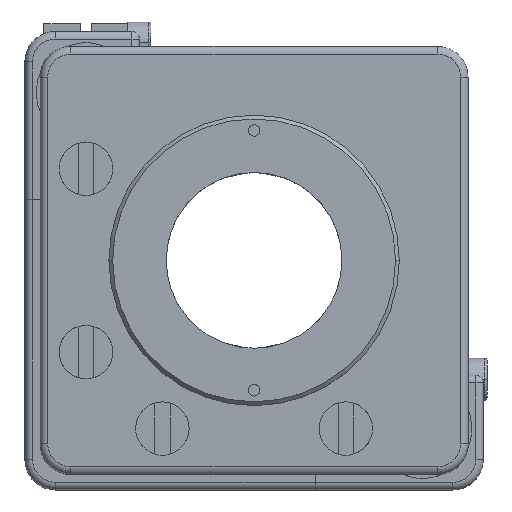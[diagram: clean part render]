
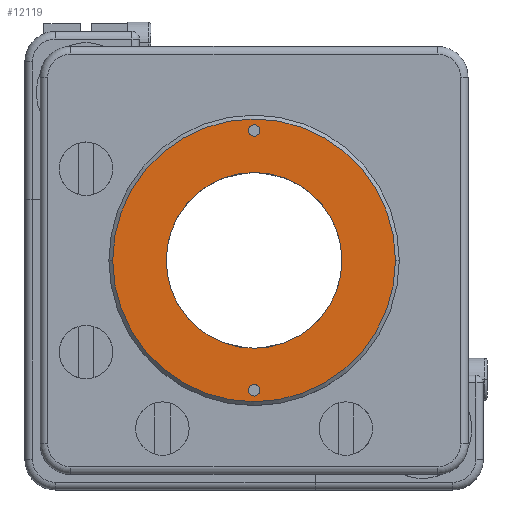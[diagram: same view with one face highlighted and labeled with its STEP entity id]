
A CAD part, top view. The second image highlights one B-rep face of the part: STEP entity #12119.
In plain terms, the highlighted planar face has unit normal (0, 0, 1).
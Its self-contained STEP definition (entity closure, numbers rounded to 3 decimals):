
#316 = VERTEX_POINT ( 'NONE', #11749 ) ;
#401 = CIRCLE ( 'NONE', #21969, 18.5 ) ;
#513 = CARTESIAN_POINT ( 'NONE',  ( 0.746, 16.77, 28. ) ) ;
#715 = DIRECTION ( 'NONE',  ( 1., 0., 0. ) ) ;
#1220 = CIRCLE ( 'NONE', #6409, 0.75 ) ;
#1267 = DIRECTION ( 'NONE',  ( 1., 0., 0. ) ) ;
#1351 = AXIS2_PLACEMENT_3D ( 'NONE', #22005, #11617, #1267 ) ;
#2970 = EDGE_LOOP ( 'NONE', ( #12337, #10475 ) ) ;
#3002 = CARTESIAN_POINT ( 'NONE',  ( -17.004, -0.23, 28. ) ) ;
#3388 = CIRCLE ( 'NONE', #14116, 0.75 ) ;
#3406 = CARTESIAN_POINT ( 'NONE',  ( 1.496, -0.23, 28. ) ) ;
#3555 = FACE_OUTER_BOUND ( 'NONE', #19277, .T. ) ;
#3877 = AXIS2_PLACEMENT_3D ( 'NONE', #7350, #19496, #9095 ) ;
#4128 = VERTEX_POINT ( 'NONE', #9942 ) ;
#4368 = AXIS2_PLACEMENT_3D ( 'NONE', #18851, #8470, #20584 ) ;
#5143 = DIRECTION ( 'NONE',  ( 1., 0., 0. ) ) ;
#5232 = ORIENTED_EDGE ( 'NONE', *, *, #6820, .T. ) ;
#5434 = CIRCLE ( 'NONE', #20000, 0.75 ) ;
#6409 = AXIS2_PLACEMENT_3D ( 'NONE', #20089, #9720, #21829 ) ;
#6820 = EDGE_CURVE ( 'NONE', #12301, #316, #401, .T. ) ;
#6924 = AXIS2_PLACEMENT_3D ( 'NONE', #3406, #15532, #5143 ) ;
#6978 = DIRECTION ( 'NONE',  ( 0., 0., 1. ) ) ;
#7350 = CARTESIAN_POINT ( 'NONE',  ( 1.496, -0.23, 28. ) ) ;
#7386 = VERTEX_POINT ( 'NONE', #513 ) ;
#8169 = DIRECTION ( 'NONE',  ( 0., 0., 1. ) ) ;
#8172 = FACE_BOUND ( 'NONE', #14638, .T. ) ;
#8380 = CARTESIAN_POINT ( 'NONE',  ( 0.746, -17.23, 28. ) ) ;
#8470 = DIRECTION ( 'NONE',  ( 0., 0., 1. ) ) ;
#9095 = DIRECTION ( 'NONE',  ( 1., 0., 0. ) ) ;
#9720 = DIRECTION ( 'NONE',  ( 0., 0., 1. ) ) ;
#9799 = CIRCLE ( 'NONE', #1351, 18.5 ) ;
#9942 = CARTESIAN_POINT ( 'NONE',  ( 2.246, -17.23, 28. ) ) ;
#10173 = DIRECTION ( 'NONE',  ( 0., 0., 1. ) ) ;
#10460 = AXIS2_PLACEMENT_3D ( 'NONE', #17377, #6978, #19113 ) ;
#10475 = ORIENTED_EDGE ( 'NONE', *, *, #11487, .F. ) ;
#11062 = DIRECTION ( 'NONE',  ( 0., 0., 1. ) ) ;
#11370 = CARTESIAN_POINT ( 'NONE',  ( -10.004, -0.23, 28. ) ) ;
#11487 = EDGE_CURVE ( 'NONE', #14701, #21282, #17670, .T. ) ;
#11617 = DIRECTION ( 'NONE',  ( 0., 0., 1. ) ) ;
#11749 = CARTESIAN_POINT ( 'NONE',  ( 19.996, -0.23, 28. ) ) ;
#11884 = EDGE_LOOP ( 'NONE', ( #19048, #17416 ) ) ;
#12119 = ADVANCED_FACE ( 'NONE', ( #3555, #8172, #21442, #16833 ), #22400, .T. ) ;
#12301 = VERTEX_POINT ( 'NONE', #3002 ) ;
#12337 = ORIENTED_EDGE ( 'NONE', *, *, #17273, .F. ) ;
#12399 = EDGE_CURVE ( 'NONE', #7386, #16650, #5434, .T. ) ;
#14116 = AXIS2_PLACEMENT_3D ( 'NONE', #18557, #8169, #20278 ) ;
#14638 = EDGE_LOOP ( 'NONE', ( #15162, #18025 ) ) ;
#14701 = VERTEX_POINT ( 'NONE', #11370 ) ;
#15028 = CIRCLE ( 'NONE', #10460, 0.75 ) ;
#15162 = ORIENTED_EDGE ( 'NONE', *, *, #16333, .F. ) ;
#15532 = DIRECTION ( 'NONE',  ( 0., 0., 1. ) ) ;
#16253 = ORIENTED_EDGE ( 'NONE', *, *, #20066, .T. ) ;
#16333 = EDGE_CURVE ( 'NONE', #4128, #20400, #1220, .T. ) ;
#16650 = VERTEX_POINT ( 'NONE', #22283 ) ;
#16833 = FACE_BOUND ( 'NONE', #2970, .T. ) ;
#17084 = EDGE_CURVE ( 'NONE', #20400, #4128, #3388, .T. ) ;
#17273 = EDGE_CURVE ( 'NONE', #21282, #14701, #19654, .T. ) ;
#17377 = CARTESIAN_POINT ( 'NONE',  ( 1.496, 16.77, 28. ) ) ;
#17416 = ORIENTED_EDGE ( 'NONE', *, *, #12399, .F. ) ;
#17670 = CIRCLE ( 'NONE', #3877, 11.5 ) ;
#18025 = ORIENTED_EDGE ( 'NONE', *, *, #17084, .F. ) ;
#18258 = EDGE_CURVE ( 'NONE', #16650, #7386, #15028, .T. ) ;
#18557 = CARTESIAN_POINT ( 'NONE',  ( 1.496, -17.23, 28. ) ) ;
#18851 = CARTESIAN_POINT ( 'NONE',  ( 1.496, -0.23, 28. ) ) ;
#19048 = ORIENTED_EDGE ( 'NONE', *, *, #18258, .F. ) ;
#19113 = DIRECTION ( 'NONE',  ( 1., 0., 0. ) ) ;
#19277 = EDGE_LOOP ( 'NONE', ( #5232, #16253 ) ) ;
#19496 = DIRECTION ( 'NONE',  ( 0., 0., 1. ) ) ;
#19654 = CIRCLE ( 'NONE', #4368, 11.5 ) ;
#20000 = AXIS2_PLACEMENT_3D ( 'NONE', #20561, #10173, #22290 ) ;
#20066 = EDGE_CURVE ( 'NONE', #316, #12301, #9799, .T. ) ;
#20089 = CARTESIAN_POINT ( 'NONE',  ( 1.496, -17.23, 28. ) ) ;
#20278 = DIRECTION ( 'NONE',  ( -1., 0., 0. ) ) ;
#20400 = VERTEX_POINT ( 'NONE', #8380 ) ;
#20561 = CARTESIAN_POINT ( 'NONE',  ( 1.496, 16.77, 28. ) ) ;
#20584 = DIRECTION ( 'NONE',  ( 1., 0., 0. ) ) ;
#21282 = VERTEX_POINT ( 'NONE', #22034 ) ;
#21442 = FACE_BOUND ( 'NONE', #11884, .T. ) ;
#21462 = CARTESIAN_POINT ( 'NONE',  ( 1.496, -0.23, 28. ) ) ;
#21829 = DIRECTION ( 'NONE',  ( -1., 0., 0. ) ) ;
#21969 = AXIS2_PLACEMENT_3D ( 'NONE', #21462, #11062, #715 ) ;
#22005 = CARTESIAN_POINT ( 'NONE',  ( 1.496, -0.23, 28. ) ) ;
#22034 = CARTESIAN_POINT ( 'NONE',  ( 12.996, -0.23, 28. ) ) ;
#22283 = CARTESIAN_POINT ( 'NONE',  ( 2.246, 16.77, 28. ) ) ;
#22290 = DIRECTION ( 'NONE',  ( 1., 0., 0. ) ) ;
#22400 = PLANE ( 'NONE',  #6924 ) ;
